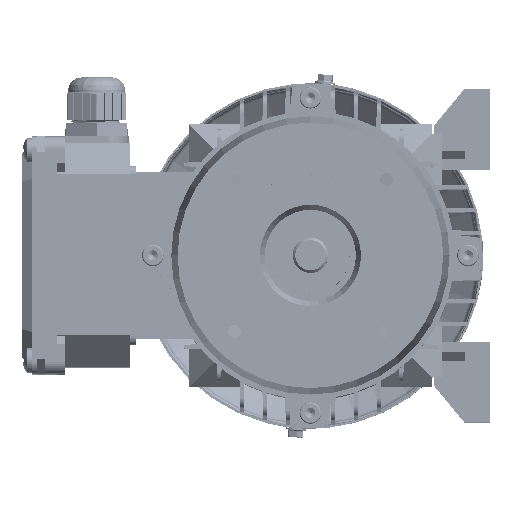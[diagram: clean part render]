
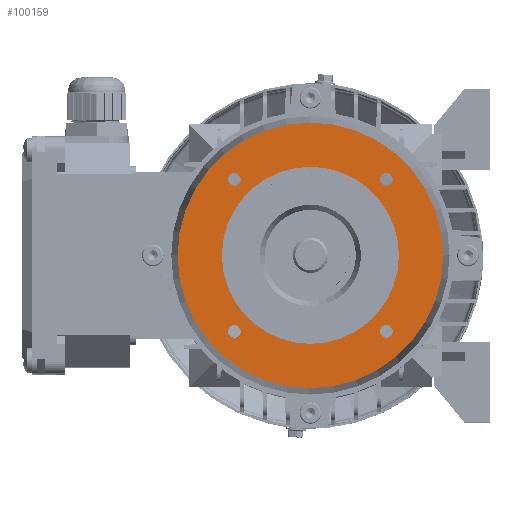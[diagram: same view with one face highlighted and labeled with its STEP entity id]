
A CAD part, top view. The second image highlights one B-rep face of the part: STEP entity #100159.
In plain terms, the highlighted planar face has unit normal (0, 0, 1).
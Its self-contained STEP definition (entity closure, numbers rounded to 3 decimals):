
#544 = EDGE_LOOP ( 'NONE', ( #29284, #125767 ) ) ;
#1229 = DIRECTION ( 'NONE',  ( 1., 0., 0. ) ) ;
#1318 = FACE_BOUND ( 'NONE', #95850, .T. ) ;
#2399 = VERTEX_POINT ( 'NONE', #139064 ) ;
#3017 = CIRCLE ( 'NONE', #22007, 2.5 ) ;
#3550 = EDGE_CURVE ( 'NONE', #45736, #11654, #15325, .T. ) ;
#7526 = CARTESIAN_POINT ( 'NONE',  ( -27.552, 30.052, -2.5 ) ) ;
#9058 = AXIS2_PLACEMENT_3D ( 'NONE', #112996, #91600, #26647 ) ;
#9658 = DIRECTION ( 'NONE',  ( 0., 0., 1. ) ) ;
#10314 = CARTESIAN_POINT ( 'NONE',  ( 27.552, 30.052, -2.5 ) ) ;
#11032 = CARTESIAN_POINT ( 'NONE',  ( 30.052, 30.052, -2.5 ) ) ;
#11654 = VERTEX_POINT ( 'NONE', #10314 ) ;
#15325 = CIRCLE ( 'NONE', #30368, 2.5 ) ;
#16525 = CIRCLE ( 'NONE', #115411, 2.5 ) ;
#17202 = VERTEX_POINT ( 'NONE', #7526 ) ;
#18492 = EDGE_LOOP ( 'NONE', ( #61504, #94578 ) ) ;
#21497 = CIRCLE ( 'NONE', #38648, 52.5 ) ;
#21925 = DIRECTION ( 'NONE',  ( 1., 0., 0. ) ) ;
#22007 = AXIS2_PLACEMENT_3D ( 'NONE', #94378, #29370, #105239 ) ;
#22857 = CARTESIAN_POINT ( 'NONE',  ( -32.552, 30.052, -2.5 ) ) ;
#23380 = DIRECTION ( 'NONE',  ( 0., 0., 1. ) ) ;
#25242 = CIRCLE ( 'NONE', #87178, 2.5 ) ;
#25325 = CIRCLE ( 'NONE', #87235, 2.5 ) ;
#26176 = ORIENTED_EDGE ( 'NONE', *, *, #78114, .F. ) ;
#26647 = DIRECTION ( 'NONE',  ( 1., 0., 0. ) ) ;
#26675 = FACE_BOUND ( 'NONE', #86540, .T. ) ;
#26796 = VERTEX_POINT ( 'NONE', #127116 ) ;
#29284 = ORIENTED_EDGE ( 'NONE', *, *, #86138, .T. ) ;
#29370 = DIRECTION ( 'NONE',  ( 0., 0., 1. ) ) ;
#29786 = CIRCLE ( 'NONE', #134021, 52.5 ) ;
#30368 = AXIS2_PLACEMENT_3D ( 'NONE', #11032, #86902, #21925 ) ;
#32026 = CARTESIAN_POINT ( 'NONE',  ( 0., 0., -2.5 ) ) ;
#34590 = EDGE_CURVE ( 'NONE', #123159, #112517, #25242, .T. ) ;
#35602 = EDGE_CURVE ( 'NONE', #26796, #99824, #16525, .T. ) ;
#37930 = EDGE_CURVE ( 'NONE', #138521, #62175, #68841, .T. ) ;
#38648 = AXIS2_PLACEMENT_3D ( 'NONE', #131062, #66131, #1229 ) ;
#40037 = EDGE_LOOP ( 'NONE', ( #130103, #111215 ) ) ;
#42943 = DIRECTION ( 'NONE',  ( 1., 0., 0. ) ) ;
#44268 = AXIS2_PLACEMENT_3D ( 'NONE', #114299, #49287, #125145 ) ;
#45736 = VERTEX_POINT ( 'NONE', #59418 ) ;
#47042 = PLANE ( 'NONE',  #9058 ) ;
#47305 = EDGE_CURVE ( 'NONE', #17202, #77917, #25325, .T. ) ;
#48982 = CARTESIAN_POINT ( 'NONE',  ( 30.052, -30.052, -2.5 ) ) ;
#49168 = AXIS2_PLACEMENT_3D ( 'NONE', #74623, #9658, #85516 ) ;
#49287 = DIRECTION ( 'NONE',  ( 0., 0., 1. ) ) ;
#49376 = CARTESIAN_POINT ( 'NONE',  ( 0., 0., -2.5 ) ) ;
#51924 = CARTESIAN_POINT ( 'NONE',  ( 32.552, -30.052, -2.5 ) ) ;
#53283 = DIRECTION ( 'NONE',  ( 0., 0., 1. ) ) ;
#55552 = FACE_OUTER_BOUND ( 'NONE', #544, .T. ) ;
#58927 = FACE_BOUND ( 'NONE', #18492, .T. ) ;
#59418 = CARTESIAN_POINT ( 'NONE',  ( 32.552, 30.052, -2.5 ) ) ;
#59672 = EDGE_CURVE ( 'NONE', #77917, #17202, #79455, .T. ) ;
#59915 = DIRECTION ( 'NONE',  ( 1., 0., 0. ) ) ;
#60175 = EDGE_CURVE ( 'NONE', #112517, #123159, #3017, .T. ) ;
#60310 = DIRECTION ( 'NONE',  ( 1., 0., 0. ) ) ;
#61504 = ORIENTED_EDGE ( 'NONE', *, *, #60175, .F. ) ;
#62175 = VERTEX_POINT ( 'NONE', #80200 ) ;
#63601 = CARTESIAN_POINT ( 'NONE',  ( -27.552, -30.052, -2.5 ) ) ;
#64410 = DIRECTION ( 'NONE',  ( 0., 0., 1. ) ) ;
#64748 = AXIS2_PLACEMENT_3D ( 'NONE', #32026, #107938, #42943 ) ;
#64888 = DIRECTION ( 'NONE',  ( 0., 0., 1. ) ) ;
#66131 = DIRECTION ( 'NONE',  ( 0., 0., 1. ) ) ;
#66284 = VERTEX_POINT ( 'NONE', #124752 ) ;
#68757 = CARTESIAN_POINT ( 'NONE',  ( 35., 0., -2.5 ) ) ;
#68841 = CIRCLE ( 'NONE', #64748, 35. ) ;
#74623 = CARTESIAN_POINT ( 'NONE',  ( -30.052, 30.052, -2.5 ) ) ;
#77475 = EDGE_CURVE ( 'NONE', #99824, #26796, #98521, .T. ) ;
#77917 = VERTEX_POINT ( 'NONE', #22857 ) ;
#78114 = EDGE_CURVE ( 'NONE', #11654, #45736, #88161, .T. ) ;
#79455 = CIRCLE ( 'NONE', #49168, 2.5 ) ;
#80200 = CARTESIAN_POINT ( 'NONE',  ( -35., 0., -2.5 ) ) ;
#84431 = FACE_BOUND ( 'NONE', #100714, .T. ) ;
#85516 = DIRECTION ( 'NONE',  ( 1., 0., 0. ) ) ;
#86087 = AXIS2_PLACEMENT_3D ( 'NONE', #48982, #124848, #59915 ) ;
#86138 = EDGE_CURVE ( 'NONE', #2399, #66284, #29786, .T. ) ;
#86314 = CIRCLE ( 'NONE', #128869, 35. ) ;
#86540 = EDGE_LOOP ( 'NONE', ( #94543, #138601 ) ) ;
#86902 = DIRECTION ( 'NONE',  ( 0., 0., 1. ) ) ;
#86995 = ORIENTED_EDGE ( 'NONE', *, *, #77475, .F. ) ;
#87178 = AXIS2_PLACEMENT_3D ( 'NONE', #88347, #23380, #99275 ) ;
#87235 = AXIS2_PLACEMENT_3D ( 'NONE', #118243, #53283, #129117 ) ;
#88161 = CIRCLE ( 'NONE', #44268, 2.5 ) ;
#88347 = CARTESIAN_POINT ( 'NONE',  ( -30.052, -30.052, -2.5 ) ) ;
#89810 = ORIENTED_EDGE ( 'NONE', *, *, #35602, .F. ) ;
#90298 = ORIENTED_EDGE ( 'NONE', *, *, #3550, .F. ) ;
#91600 = DIRECTION ( 'NONE',  ( 0., 0., 1. ) ) ;
#94378 = CARTESIAN_POINT ( 'NONE',  ( -30.052, -30.052, -2.5 ) ) ;
#94543 = ORIENTED_EDGE ( 'NONE', *, *, #37930, .F. ) ;
#94578 = ORIENTED_EDGE ( 'NONE', *, *, #34590, .F. ) ;
#95609 = CARTESIAN_POINT ( 'NONE',  ( -32.552, -30.052, -2.5 ) ) ;
#95850 = EDGE_LOOP ( 'NONE', ( #86995, #89810 ) ) ;
#98521 = CIRCLE ( 'NONE', #86087, 2.5 ) ;
#99275 = DIRECTION ( 'NONE',  ( 1., 0., 0. ) ) ;
#99316 = EDGE_CURVE ( 'NONE', #62175, #138521, #86314, .T. ) ;
#99824 = VERTEX_POINT ( 'NONE', #51924 ) ;
#100159 = ADVANCED_FACE ( 'NONE', ( #1318, #58927, #120048, #84431, #55552, #26675 ), #47042, .T. ) ;
#100714 = EDGE_LOOP ( 'NONE', ( #90298, #26176 ) ) ;
#105239 = DIRECTION ( 'NONE',  ( 1., 0., 0. ) ) ;
#107938 = DIRECTION ( 'NONE',  ( 0., 0., 1. ) ) ;
#111215 = ORIENTED_EDGE ( 'NONE', *, *, #59672, .F. ) ;
#112517 = VERTEX_POINT ( 'NONE', #63601 ) ;
#112996 = CARTESIAN_POINT ( 'NONE',  ( 35., 0., -2.5 ) ) ;
#114299 = CARTESIAN_POINT ( 'NONE',  ( 30.052, 30.052, -2.5 ) ) ;
#115411 = AXIS2_PLACEMENT_3D ( 'NONE', #129784, #64888, #140661 ) ;
#118243 = CARTESIAN_POINT ( 'NONE',  ( -30.052, 30.052, -2.5 ) ) ;
#120048 = FACE_BOUND ( 'NONE', #40037, .T. ) ;
#123159 = VERTEX_POINT ( 'NONE', #95609 ) ;
#124752 = CARTESIAN_POINT ( 'NONE',  ( -52.5, 0., -2.5 ) ) ;
#124848 = DIRECTION ( 'NONE',  ( 0., 0., 1. ) ) ;
#124939 = EDGE_CURVE ( 'NONE', #66284, #2399, #21497, .T. ) ;
#125145 = DIRECTION ( 'NONE',  ( 1., 0., 0. ) ) ;
#125231 = DIRECTION ( 'NONE',  ( 0., 0., 1. ) ) ;
#125767 = ORIENTED_EDGE ( 'NONE', *, *, #124939, .T. ) ;
#127116 = CARTESIAN_POINT ( 'NONE',  ( 27.552, -30.052, -2.5 ) ) ;
#128869 = AXIS2_PLACEMENT_3D ( 'NONE', #129330, #64410, #140213 ) ;
#129117 = DIRECTION ( 'NONE',  ( 1., 0., 0. ) ) ;
#129330 = CARTESIAN_POINT ( 'NONE',  ( 0., 0., -2.5 ) ) ;
#129784 = CARTESIAN_POINT ( 'NONE',  ( 30.052, -30.052, -2.5 ) ) ;
#130103 = ORIENTED_EDGE ( 'NONE', *, *, #47305, .F. ) ;
#131062 = CARTESIAN_POINT ( 'NONE',  ( 0., 0., -2.5 ) ) ;
#134021 = AXIS2_PLACEMENT_3D ( 'NONE', #49376, #125231, #60310 ) ;
#138521 = VERTEX_POINT ( 'NONE', #68757 ) ;
#138601 = ORIENTED_EDGE ( 'NONE', *, *, #99316, .F. ) ;
#139064 = CARTESIAN_POINT ( 'NONE',  ( 52.5, 0., -2.5 ) ) ;
#140213 = DIRECTION ( 'NONE',  ( 1., 0., 0. ) ) ;
#140661 = DIRECTION ( 'NONE',  ( 1., 0., 0. ) ) ;
